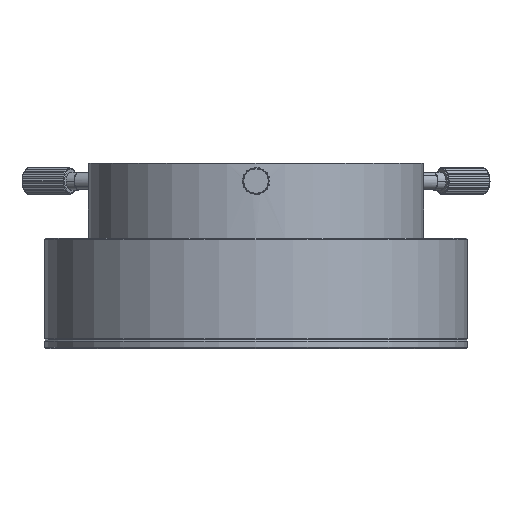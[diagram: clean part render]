
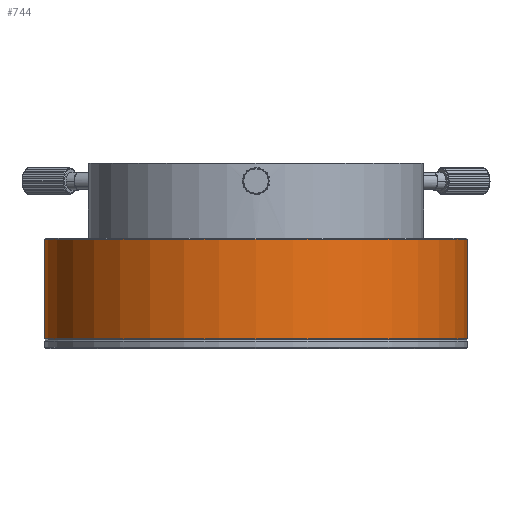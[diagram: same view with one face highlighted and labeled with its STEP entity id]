
A CAD part, front view. The second image highlights one B-rep face of the part: STEP entity #744.
In plain terms, the highlighted cylindrical face has radius 48 mm (diameter 96 mm), a partial arc.
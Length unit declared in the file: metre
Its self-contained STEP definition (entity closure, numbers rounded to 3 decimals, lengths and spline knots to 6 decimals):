
#744=ADVANCED_FACE('248:11748',(#2357),#2358,.T.);
#2357=FACE_OUTER_BOUND('',#4332,.T.);
#2358=CYLINDRICAL_SURFACE('',#4333,0.048);
#4332=EDGE_LOOP('',(#10007,#10008,#10009,#10010));
#4333=AXIS2_PLACEMENT_3D('',#10011,#10012,#10013);
#10007=ORIENTED_EDGE('',*,*,#12478,.T.);
#10008=ORIENTED_EDGE('',*,*,#12482,.F.);
#10009=ORIENTED_EDGE('',*,*,#12479,.T.);
#10010=ORIENTED_EDGE('',*,*,#14054,.F.);
#10011=CARTESIAN_POINT('',(0.0,0.0,0.002));
#10012=DIRECTION('',(0.0,0.0,1.0));
#10013=DIRECTION('',(1.0,0.0,0.0));
#12478=EDGE_CURVE('',#14938,#14943,#14944,.T.);
#12479=EDGE_CURVE('',#14945,#14935,#14946,.T.);
#12482=EDGE_CURVE('248:16527',#14945,#14943,#14950,.T.);
#14054=EDGE_CURVE('248:16530',#14938,#14935,#17585,.T.);
#14935=VERTEX_POINT('',#18968);
#14938=VERTEX_POINT('',#18972);
#14943=VERTEX_POINT('',#18978);
#14944=LINE('',#18979,#18980);
#14945=VERTEX_POINT('',#18981);
#14946=LINE('',#18982,#18983);
#14950=CIRCLE('',#18988,0.048);
#17585=CIRCLE('',#27949,0.048);
#18968=CARTESIAN_POINT('',(-0.048,0.,0.0022));
#18972=CARTESIAN_POINT('',(0.048,0.,0.0022));
#18978=CARTESIAN_POINT('',(0.048,0.,0.0248));
#18979=CARTESIAN_POINT('',(0.048,0.,0.0135));
#18980=VECTOR('',#31156,1.0);
#18981=CARTESIAN_POINT('',(-0.048,0.,0.0248));
#18982=CARTESIAN_POINT('',(-0.048,0.,0.0135));
#18983=VECTOR('',#31157,1.0);
#18988=AXIS2_PLACEMENT_3D('',#31162,#31163,#31164);
#27949=AXIS2_PLACEMENT_3D('',#33705,#33706,#33707);
#31156=DIRECTION('',(0.0,0.0,1.0));
#31157=DIRECTION('',(-0.0,-0.0,-1.0));
#31162=CARTESIAN_POINT('',(0.0,0.0,0.0248));
#31163=DIRECTION('',(0.0,0.0,1.0));
#31164=DIRECTION('',(-1.0,0.0,0.0));
#33705=CARTESIAN_POINT('',(0.0,0.0,0.0022));
#33706=DIRECTION('',(-0.0,0.0,-1.0));
#33707=DIRECTION('',(-1.0,0.0,0.0));
